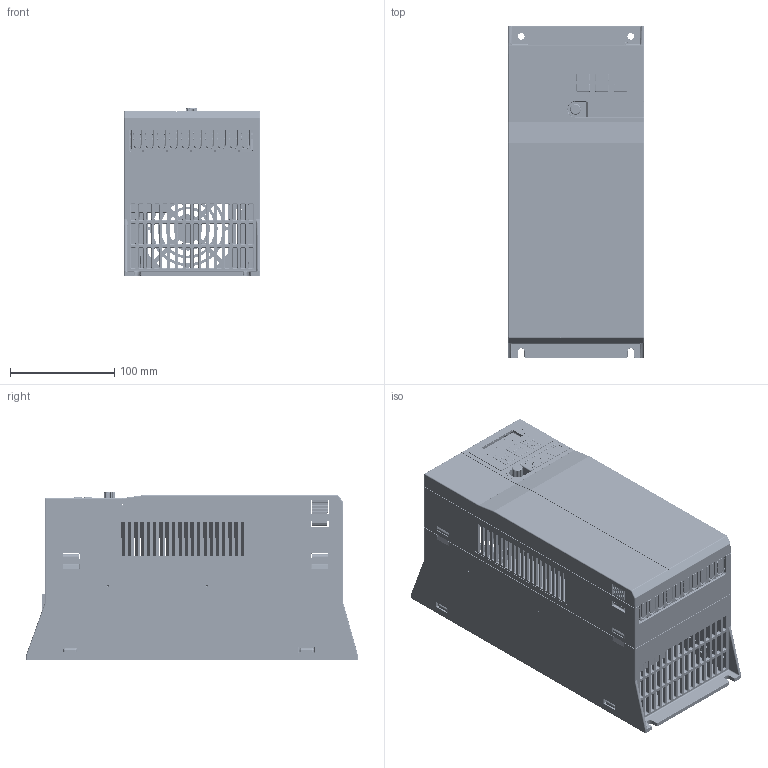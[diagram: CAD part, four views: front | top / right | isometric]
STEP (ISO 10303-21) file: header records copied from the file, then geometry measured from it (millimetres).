
FILE_DESCRIPTION(/* description */ (''),/* implementation_level */ '2;1');
FILE_NAME(/* name */ 'C:\Users\U390257\OneDrive - Danfoss\Documents\Работа\Текущие задачи\2022.04.26 Veichi 3D\Готовые модели\ac10-t3-7R5_011_3d\ac10-t3-7R5_011_3d.stp',/* time_stamp */ '2022-04-27T11:42:17+03:00',/* author */ ('U390257'),/* organization */ (''),/* preprocessor_version */ 'ST-DEVELOPER v18.1',/* originating_system */ 'Autodesk Inventor 2020',/* authorisation */ '');
FILE_SCHEMA (('AUTOMOTIVE_DESIGN { 1 0 10303 214 3 1 1 }'));
Products named in the file (70): ac10-t3-7R5_011_3d; AC10-T3-011G-P_AF0_ASM; AC10-T3-011G-P001_AF0_ASM; AC10-T3-011G-P001_AF1; AC10-T3-011G-P002_AF0; AC10-T3-011G-P003_AF0; AC10-T3-011G-P004_AF0; AC10-T3-011G-P005; AC10-T3-011G-P006_AF0_ASM; AC10-T3-011G-P006_AF1; AC10-D_AF0_ASM; AC10-T3-022G_QUDONGBAN_AF0_ASM; AC10-T3-022G_QUDONGBAN_AF1; 1360010094_AF0; DUANZI_AF0; AC10-T3-015G-P007_AF0; ASM0004_AF0_ASM; M4X10_GB9074_8_AF0; M4X10_GB9074_8_AF1; M4X10_GB9074_8_AF2; M4X10_GB9074_8_AF3; M4X10_GB9074_8_AF4; M4X10_GB9074_8_AF5; M4X10_GB9074_8_AF6; M4X10_GB9074_8_AF7; M4X10_GB9074_8_AF8; M4X10_GB9074_8_AF9; M4X10_GB9074_8_AF10; M4X10_GB9074_8_AF11; M4X10_GB9074_8_AF12; M4X10_GB9074_8_AF13; M4X10_GB9074_8_AF14; M4X10_GB9074_8_AF15; M4X10_GB9074_8_AF16; M4X10_GB9074_8_AF17; M4X10_GB9074_8_AF18; M4X10_GB9074_8_AF19; M4X10_GB9074_8_AF20; M4X10_GB9074_8_AF21; M4X10_GB9074_8_AF22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
Assembly tree (70 placements, depth 5):
  ac10-t3-7R5_011_3d
    AC10-T3-011G-P_AF0_ASM
      AC10-T3-011G-P001_AF0_ASM
        AC10-T3-011G-P001_AF1
      AC10-T3-011G-P002_AF0
      AC10-T3-011G-P003_AF0
      AC10-T3-011G-P004_AF0
      AC10-T3-011G-P005
    AC10-T3-011G-P006_AF0_ASM
      AC10-T3-011G-P006_AF1
    AC10-D_AF0_ASM
      AC10-T3-022G_QUDONGBAN_AF0_ASM
        AC10-T3-022G_QUDONGBAN_AF1
        1360010094_AF0
        DUANZI_AF0
        AC10-T3-015G-P007_AF0
        ASM0004_AF0_ASM
          M4X10_GB9074_8_AF0
          M4X10_GB9074_8_AF1
          M4X10_GB9074_8_AF2
          M4X10_GB9074_8_AF3
          M4X10_GB9074_8_AF4
          M4X10_GB9074_8_AF5
          M4X10_GB9074_8_AF6
          M4X10_GB9074_8_AF7
          M4X10_GB9074_8_AF8
          M4X10_GB9074_8_AF9
          M4X10_GB9074_8_AF10
          M4X10_GB9074_8_AF11
          M4X10_GB9074_8_AF12
          M4X10_GB9074_8_AF13
          M4X10_GB9074_8_AF14
          M4X10_GB9074_8_AF15
          M4X10_GB9074_8_AF16
          M4X10_GB9074_8_AF17
          M4X10_GB9074_8_AF18
          M4X10_GB9074_8_AF19
          M4X10_GB9074_8_AF20
          M4X10_GB9074_8_AF21
          M4X10_GB9074_8_AF22
          M4X10_GB9074_8_AF23
          M4X10_GB9074_8_AF24
      AC10-T3-022G-DIANRONGBAN_AF0_ASM
        AC10-T3-022G-DIANRONGBAN_AF1
      AC10-T3-022G-KONGZHIBAN_AF0_ASM
        SMG_1_AF0
        ELT-TJ508-01-9P_1_AF0
        RJ45_1_AF0
        RJ45_1_AF1
        SWITCH_6X6_AF0
        SWITCH_6X6_AF1
        SWITCH_6X6_AF2
        SWITCH_6X6_AF3
        SWITCH_6X6_AF4
        SWITCH_6X6_AF5
        JIDIANQI_AF0
        DS-06_1_AF0
        EL-DWG_AF0
        2X15P_PITCH2R54_AF0
      AC10-T3-011G-H001_AF0
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Bounding box: 130.21 x 317.9 x 161 mm (x, y, z)
Volume: 603244.8 mm3; surface area: 584846.1 mm2
Topology: 72 solids, 72 shells, 10275 faces, 27542 edges, 17822 vertices
Faces by surface type: plane 6453, cylinder 1772, bspline 1487, cone 274, torus 191, sphere 98
Full cylindrical faces by diameter (mm): 0.5 x30, 0.7 x1, 1 x1, 1.2 x4, 1.3 x1, 1.5 x6, 1.6 x6, 1.7 x1, 2 x5, 2.1 x1, 2.4 x2, 2.5 x1, 3 x6, 3.8 x22, 4 x36, 5 x2, 6.6 x1, 6.78 x25, 7 x28, 9 x25
Entity records: 370666 total; most frequent: CARTESIAN_POINT 111459, ORIENTED_EDGE 54930, DIRECTION 48718, EDGE_CURVE 27465, LINE 19262, VECTOR 19262, VERTEX_POINT 17792, AXIS2_PLACEMENT_3D 14728
